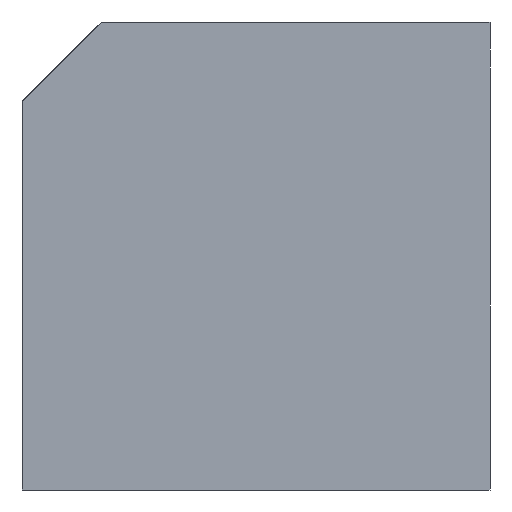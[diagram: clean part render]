
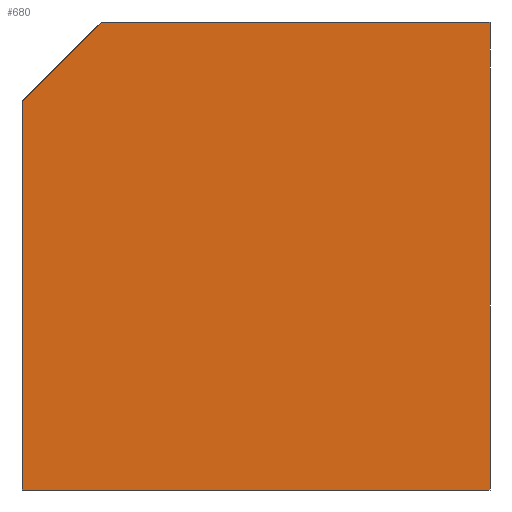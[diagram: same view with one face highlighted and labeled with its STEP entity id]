
A CAD part, left-side view. The second image highlights one B-rep face of the part: STEP entity #680.
In plain terms, the highlighted planar face has unit normal (-1, 0, 0).
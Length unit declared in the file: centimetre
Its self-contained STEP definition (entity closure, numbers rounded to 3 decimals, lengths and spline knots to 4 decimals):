
#9 = CARTESIAN_POINT ( 'NONE',  ( 0., 1000., 1000. ) ) ;
#18 = CARTESIAN_POINT ( 'NONE',  ( 0., 1000., 1000. ) ) ;
#74 = VECTOR ( 'NONE', #323, 100. ) ;
#85 = DIRECTION ( 'NONE',  ( 0., 0., -1. ) ) ;
#110 = LINE ( 'NONE', #9, #163 ) ;
#127 = CARTESIAN_POINT ( 'NONE',  ( 0., 0., 1000. ) ) ;
#139 = LINE ( 'NONE', #18, #74 ) ;
#158 = VERTEX_POINT ( 'NONE', #584 ) ;
#163 = VECTOR ( 'NONE', #1040, 100. ) ;
#202 = DIRECTION ( 'NONE',  ( 1., 0., 0. ) ) ;
#232 = CARTESIAN_POINT ( 'NONE',  ( 0., 831.1287, 1000. ) ) ;
#247 = VERTEX_POINT ( 'NONE', #232 ) ;
#265 = VECTOR ( 'NONE', #294, 100. ) ;
#268 = EDGE_LOOP ( 'NONE', ( #501, #774, #951, #625, #931 ) ) ;
#285 = PLANE ( 'NONE',  #1332 ) ;
#294 = DIRECTION ( 'NONE',  ( 0., -1., 0. ) ) ;
#323 = DIRECTION ( 'NONE',  ( 0., 0., -1. ) ) ;
#354 = CARTESIAN_POINT ( 'NONE',  ( 0., 831.1287, 1000. ) ) ;
#355 = VERTEX_POINT ( 'NONE', #628 ) ;
#382 = FACE_OUTER_BOUND ( 'NONE', #268, .T. ) ;
#422 = VECTOR ( 'NONE', #487, 100. ) ;
#445 = CARTESIAN_POINT ( 'NONE',  ( 0., 0., 0. ) ) ;
#487 = DIRECTION ( 'NONE',  ( 0., 0.707, -0.707 ) ) ;
#501 = ORIENTED_EDGE ( 'NONE', *, *, #832, .F. ) ;
#530 = DIRECTION ( 'NONE',  ( 0., 0., -1. ) ) ;
#584 = CARTESIAN_POINT ( 'NONE',  ( 0., 0., 1000. ) ) ;
#625 = ORIENTED_EDGE ( 'NONE', *, *, #783, .T. ) ;
#628 = CARTESIAN_POINT ( 'NONE',  ( 0., 1000., 0. ) ) ;
#679 = VERTEX_POINT ( 'NONE', #681 ) ;
#680 = ADVANCED_FACE ( 'NONE', ( #382 ), #285, .F. ) ;
#681 = CARTESIAN_POINT ( 'NONE',  ( 0., 1000., 831.1287 ) ) ;
#774 = ORIENTED_EDGE ( 'NONE', *, *, #1164, .T. ) ;
#783 = EDGE_CURVE ( 'NONE', #355, #963, #1220, .T. ) ;
#832 = EDGE_CURVE ( 'NONE', #247, #158, #110, .T. ) ;
#931 = ORIENTED_EDGE ( 'NONE', *, *, #1032, .F. ) ;
#937 = EDGE_CURVE ( 'NONE', #679, #355, #139, .T. ) ;
#951 = ORIENTED_EDGE ( 'NONE', *, *, #937, .T. ) ;
#963 = VERTEX_POINT ( 'NONE', #445 ) ;
#991 = LINE ( 'NONE', #354, #422 ) ;
#1026 = CARTESIAN_POINT ( 'NONE',  ( 0., 1000., 0. ) ) ;
#1032 = EDGE_CURVE ( 'NONE', #158, #963, #1062, .T. ) ;
#1040 = DIRECTION ( 'NONE',  ( 0., -1., 0. ) ) ;
#1062 = LINE ( 'NONE', #127, #1219 ) ;
#1122 = CARTESIAN_POINT ( 'NONE',  ( 0., 1000., 1000. ) ) ;
#1164 = EDGE_CURVE ( 'NONE', #247, #679, #991, .T. ) ;
#1219 = VECTOR ( 'NONE', #530, 100. ) ;
#1220 = LINE ( 'NONE', #1026, #265 ) ;
#1332 = AXIS2_PLACEMENT_3D ( 'NONE', #1122, #202, #85 ) ;
